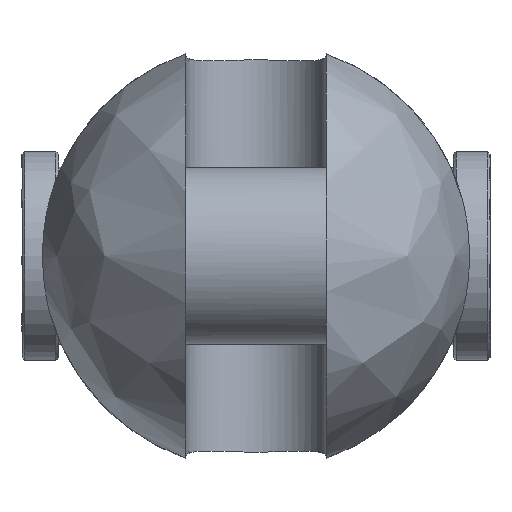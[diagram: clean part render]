
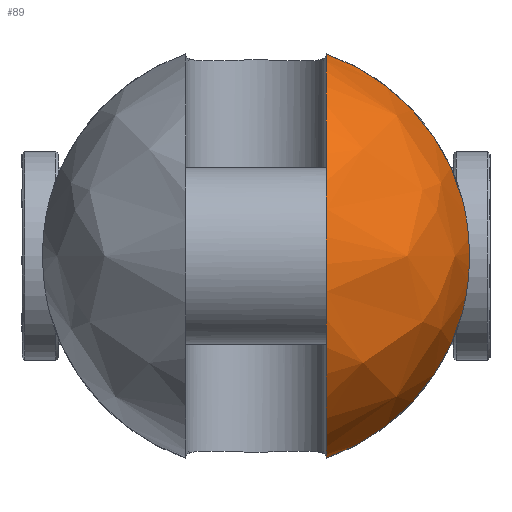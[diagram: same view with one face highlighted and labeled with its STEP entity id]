
A CAD part, left-side view. The second image highlights one B-rep face of the part: STEP entity #89.
In plain terms, the highlighted free-form (B-spline) face has degree [2, 2] with [9, 5] control points.
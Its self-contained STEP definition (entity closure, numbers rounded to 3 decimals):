
#89=ADVANCED_FACE('',(#164),#1306,.T.);
#164=FACE_OUTER_BOUND('',#249,.T.);
#249=EDGE_LOOP('',(#583,#584,#585,#586));
#583=ORIENTED_EDGE('',*,*,#807,.T.);
#584=ORIENTED_EDGE('',*,*,#835,.F.);
#585=ORIENTED_EDGE('',*,*,#847,.T.);
#586=ORIENTED_EDGE('',*,*,#827,.F.);
#807=EDGE_CURVE('',#1192,#1191,#1045,.T.);
#827=EDGE_CURVE('',#1192,#1204,#1055,.T.);
#835=EDGE_CURVE('',#1211,#1191,#1056,.T.);
#847=EDGE_CURVE('',#1211,#1204,#963,.T.);
#963=B_SPLINE_CURVE_WITH_KNOTS('',3,(#3120,#3121,#3122,#3123,#3124,#3125,
#3126,#3127,#3128,#3129,#3130,#3131,#3132,#3133),.UNSPECIFIED.,.F.,.F.,
(4,2,2,2,2,2,4),(0.,1.609,6.551,11.494,16.437,
21.379,22.988),.UNSPECIFIED.);
#1045=(
BOUNDED_CURVE()
B_SPLINE_CURVE(2,(#2896,#2897,#2898,#2899,#2900),.UNSPECIFIED.,.F.,.F.)
B_SPLINE_CURVE_WITH_KNOTS((3,2,3),(-121.623,-60.811,0.),
 .UNSPECIFIED.)
CURVE()
GEOMETRIC_REPRESENTATION_ITEM()
RATIONAL_B_SPLINE_CURVE((1.,0.707,1.,0.707,1.))
REPRESENTATION_ITEM('')
);
#1055=(
BOUNDED_CURVE()
B_SPLINE_CURVE(2,(#2990,#2991,#2992),.UNSPECIFIED.,.F.,.F.)
B_SPLINE_CURVE_WITH_KNOTS((3,3),(0.,39.7),.UNSPECIFIED.)
CURVE()
GEOMETRIC_REPRESENTATION_ITEM()
RATIONAL_B_SPLINE_CURVE((1.,0.885,1.))
REPRESENTATION_ITEM('')
);
#1056=(
BOUNDED_CURVE()
B_SPLINE_CURVE(2,(#3047,#3048,#3049),.UNSPECIFIED.,.F.,.F.)
B_SPLINE_CURVE_WITH_KNOTS((3,3),(0.,39.7),.UNSPECIFIED.)
CURVE()
GEOMETRIC_REPRESENTATION_ITEM()
RATIONAL_B_SPLINE_CURVE((1.,0.885,1.))
REPRESENTATION_ITEM('')
);
#1191=VERTEX_POINT('',#2837);
#1192=VERTEX_POINT('',#2838);
#1204=VERTEX_POINT('',#2850);
#1211=VERTEX_POINT('',#2857);
#1306=(
BOUNDED_SURFACE()
B_SPLINE_SURFACE(2,2,((#2445,#2446,#2447,#2448,#2449),(#2450,#2451,#2452,
#2453,#2454),(#2455,#2456,#2457,#2458,#2459),(#2460,#2461,#2462,#2463,#2464),
(#2465,#2466,#2467,#2468,#2469),(#2470,#2471,#2472,#2473,#2474),(#2475,
#2476,#2477,#2478,#2479),(#2480,#2481,#2482,#2483,#2484),(#2485,#2486,#2487,
#2488,#2489)),.UNSPECIFIED.,.T.,.F.,.F.)
B_SPLINE_SURFACE_WITH_KNOTS((3,2,2,2,3),(3,2,3),(0.,64.403,128.805,
193.208,257.611),(0.,64.403,128.805),
 .UNSPECIFIED.)
GEOMETRIC_REPRESENTATION_ITEM()
RATIONAL_B_SPLINE_SURFACE(((1.,0.707,1.,0.707,1.),
(0.707,0.5,0.707,0.5,0.707),(1.,0.707,
1.,0.707,1.),(0.707,0.5,0.707,0.5,0.707),
(1.,0.707,1.,0.707,1.),(0.707,0.5,0.707,
0.5,0.707),(1.,0.707,1.,0.707,1.),(0.707,
0.5,0.707,0.5,0.707),(1.,0.707,1.,0.707,
1.)))
REPRESENTATION_ITEM('')
SURFACE()
);
#2445=CARTESIAN_POINT('',(-59.,0.,0.));
#2446=CARTESIAN_POINT('',(-59.,41.,0.));
#2447=CARTESIAN_POINT('',(-18.,41.,0.));
#2448=CARTESIAN_POINT('',(23.,41.,0.));
#2449=CARTESIAN_POINT('',(23.,0.,0.));
#2450=CARTESIAN_POINT('',(-59.,0.,0.));
#2451=CARTESIAN_POINT('',(-59.,41.,41.));
#2452=CARTESIAN_POINT('',(-18.,41.,41.));
#2453=CARTESIAN_POINT('',(23.,41.,41.));
#2454=CARTESIAN_POINT('',(23.,0.,0.));
#2455=CARTESIAN_POINT('',(-59.,0.,0.));
#2456=CARTESIAN_POINT('',(-59.,0.,41.));
#2457=CARTESIAN_POINT('',(-18.,0.,41.));
#2458=CARTESIAN_POINT('',(23.,0.,41.));
#2459=CARTESIAN_POINT('',(23.,0.,0.));
#2460=CARTESIAN_POINT('',(-59.,0.,0.));
#2461=CARTESIAN_POINT('',(-59.,-41.,41.));
#2462=CARTESIAN_POINT('',(-18.,-41.,41.));
#2463=CARTESIAN_POINT('',(23.,-41.,41.));
#2464=CARTESIAN_POINT('',(23.,0.,0.));
#2465=CARTESIAN_POINT('',(-59.,0.,0.));
#2466=CARTESIAN_POINT('',(-59.,-41.,0.));
#2467=CARTESIAN_POINT('',(-18.,-41.,0.));
#2468=CARTESIAN_POINT('',(23.,-41.,0.));
#2469=CARTESIAN_POINT('',(23.,0.,0.));
#2470=CARTESIAN_POINT('',(-59.,0.,0.));
#2471=CARTESIAN_POINT('',(-59.,-41.,-41.));
#2472=CARTESIAN_POINT('',(-18.,-41.,-41.));
#2473=CARTESIAN_POINT('',(23.,-41.,-41.));
#2474=CARTESIAN_POINT('',(23.,0.,0.));
#2475=CARTESIAN_POINT('',(-59.,0.,0.));
#2476=CARTESIAN_POINT('',(-59.,0.,-41.));
#2477=CARTESIAN_POINT('',(-18.,0.,-41.));
#2478=CARTESIAN_POINT('',(23.,0.,-41.));
#2479=CARTESIAN_POINT('',(23.,0.,0.));
#2480=CARTESIAN_POINT('',(-59.,0.,0.));
#2481=CARTESIAN_POINT('',(-59.,41.,-41.));
#2482=CARTESIAN_POINT('',(-18.,41.,-41.));
#2483=CARTESIAN_POINT('',(23.,41.,-41.));
#2484=CARTESIAN_POINT('',(23.,0.,0.));
#2485=CARTESIAN_POINT('',(-59.,0.,0.));
#2486=CARTESIAN_POINT('',(-59.,41.,0.));
#2487=CARTESIAN_POINT('',(-18.,41.,0.));
#2488=CARTESIAN_POINT('',(23.,41.,0.));
#2489=CARTESIAN_POINT('',(23.,0.,0.));
#2837=CARTESIAN_POINT('',(-18.,-13.5,-38.714));
#2838=CARTESIAN_POINT('',(-18.,-13.5,38.714));
#2850=CARTESIAN_POINT('',(-18.,-39.547,10.817));
#2857=CARTESIAN_POINT('',(-18.,-39.547,-10.817));
#2896=CARTESIAN_POINT('',(-18.,-13.5,38.714));
#2897=CARTESIAN_POINT('',(-56.714,-13.5,38.714));
#2898=CARTESIAN_POINT('',(-56.714,-13.5,0.));
#2899=CARTESIAN_POINT('',(-56.714,-13.5,-38.714));
#2900=CARTESIAN_POINT('',(-18.,-13.5,-38.714));
#2990=CARTESIAN_POINT('',(-18.,-13.5,38.714));
#2991=CARTESIAN_POINT('',(-18.,-33.859,31.614));
#2992=CARTESIAN_POINT('',(-18.,-39.547,10.817));
#3047=CARTESIAN_POINT('',(-18.,-39.547,-10.817));
#3048=CARTESIAN_POINT('',(-18.,-33.859,-31.614));
#3049=CARTESIAN_POINT('',(-18.,-13.5,-38.714));
#3120=CARTESIAN_POINT('',(-18.,-39.547,-10.817));
#3121=CARTESIAN_POINT('',(-18.272,-39.671,-10.364));
#3122=CARTESIAN_POINT('',(-18.528,-39.787,-9.9));
#3123=CARTESIAN_POINT('',(-19.498,-40.225,-7.968));
#3124=CARTESIAN_POINT('',(-20.064,-40.476,-6.412));
#3125=CARTESIAN_POINT('',(-20.815,-40.809,-3.226));
#3126=CARTESIAN_POINT('',(-21.,-40.89,-1.596));
#3127=CARTESIAN_POINT('',(-21.,-40.89,1.596));
#3128=CARTESIAN_POINT('',(-20.815,-40.809,3.226));
#3129=CARTESIAN_POINT('',(-20.064,-40.476,6.412));
#3130=CARTESIAN_POINT('',(-19.498,-40.225,7.968));
#3131=CARTESIAN_POINT('',(-18.528,-39.787,9.9));
#3132=CARTESIAN_POINT('',(-18.272,-39.671,10.364));
#3133=CARTESIAN_POINT('',(-18.,-39.547,10.817));
